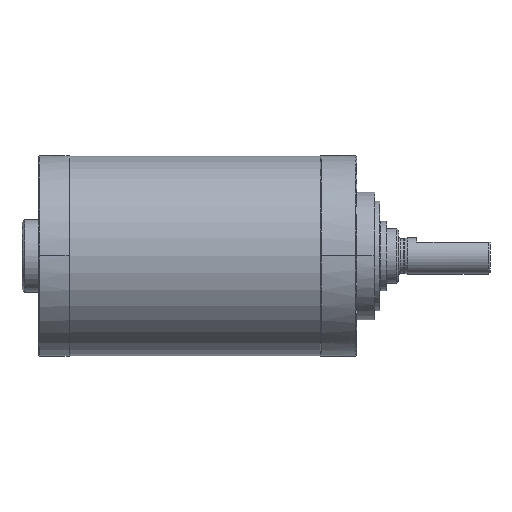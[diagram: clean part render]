
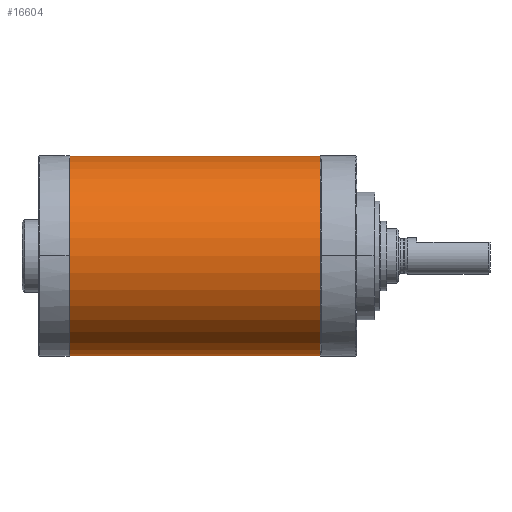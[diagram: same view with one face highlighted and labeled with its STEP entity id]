
A CAD part, top view. The second image highlights one B-rep face of the part: STEP entity #16604.
In plain terms, the highlighted cylindrical face has radius 10.95 mm (diameter 21.9 mm), a partial arc.
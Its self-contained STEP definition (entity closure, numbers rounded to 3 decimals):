
#16409=CARTESIAN_POINT('',(13.7,0.,0.));
#16410=DIRECTION('',(-1.,0.,0.));
#16411=DIRECTION('',(0.,1.,0.));
#16412=AXIS2_PLACEMENT_3D('',#16409,#16410,#16411);
#16417=DIRECTION('',(-1.,0.,0.));
#16418=VECTOR('',#16417,27.4);
#16419=CARTESIAN_POINT('',(13.7,10.95,0.));
#16420=LINE('',#16419,#16418);
#16432=DIRECTION('',(-1.,0.,0.));
#16433=VECTOR('',#16432,27.4);
#16434=CARTESIAN_POINT('',(13.7,-10.95,0.));
#16435=LINE('',#16434,#16433);
#16533=CARTESIAN_POINT('',(-13.7,0.,0.));
#16534=DIRECTION('',(-1.,0.,0.));
#16535=DIRECTION('',(0.,1.,0.));
#16536=AXIS2_PLACEMENT_3D('',#16533,#16534,#16535);
#16565=CARTESIAN_POINT('',(13.7,10.95,0.));
#16566=CARTESIAN_POINT('',(-13.7,10.95,0.));
#16567=VERTEX_POINT('',#16565);
#16568=VERTEX_POINT('',#16566);
#16569=CARTESIAN_POINT('',(13.7,-10.95,0.));
#16570=CARTESIAN_POINT('',(-13.7,-10.95,0.));
#16571=VERTEX_POINT('',#16569);
#16572=VERTEX_POINT('',#16570);
#16589=CARTESIAN_POINT('',(15.07,0.,0.));
#16590=DIRECTION('',(-1.,0.,0.));
#16591=DIRECTION('',(0.,1.,0.));
#16592=AXIS2_PLACEMENT_3D('',#16589,#16590,#16591);
#16593=CYLINDRICAL_SURFACE('',#16592,10.95);
#16595=ORIENTED_EDGE('',*,*,#16594,.T.);
#16597=ORIENTED_EDGE('',*,*,#16596,.T.);
#16599=ORIENTED_EDGE('',*,*,#16598,.F.);
#16601=ORIENTED_EDGE('',*,*,#16600,.F.);
#16602=EDGE_LOOP('',(#16595,#16597,#16599,#16601));
#16603=FACE_OUTER_BOUND('',#16602,.F.);
#16413=CIRCLE('',#16412,10.95);
#16537=CIRCLE('',#16536,10.95);
#16594=EDGE_CURVE('',#16567,#16568,#16420,.T.);
#16596=EDGE_CURVE('',#16568,#16572,#16537,.T.);
#16598=EDGE_CURVE('',#16571,#16572,#16435,.T.);
#16600=EDGE_CURVE('',#16567,#16571,#16413,.T.);
#16604=ADVANCED_FACE('',(#16603),#16593,.T.);
